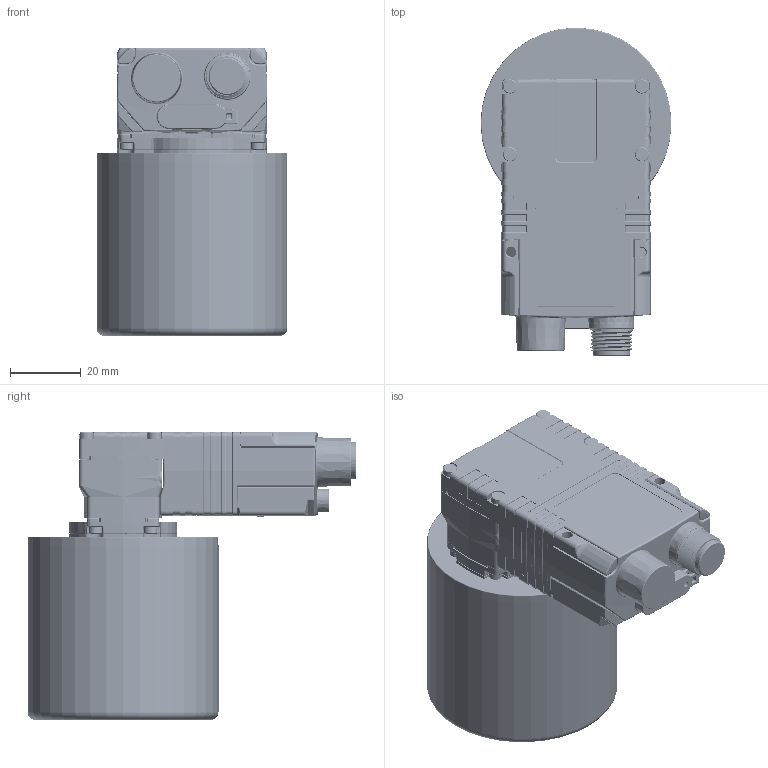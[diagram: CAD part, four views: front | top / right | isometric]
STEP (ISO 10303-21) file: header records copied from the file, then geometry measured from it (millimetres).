
FILE_DESCRIPTION (( 'STEP AP203' ), '1' );
FILE_NAME ('DM280_with_C-Mount_Cover_Angled.STEP', '2021-05-07T12:54:18', ( '' ), ( '' ), 'SwSTEP 2.0', 'SolidWorks 2021', '' );
FILE_SCHEMA (( 'CONFIG_CONTROL_DESIGN' ));
Length unit declared in the file: millimetre
Products named in the file (1): DM280_with_C-Mount_Cover_Angled
Bounding box: 54 x 93.01 x 81.4 mm (x, y, z)
Volume: 187018.4 mm3; surface area: 51426.9 mm2
Topology: 23 solids, 38 shells, 4199 faces, 10912 edges, 6853 vertices
Faces by surface type: plane 1554, cylinder 1357, bspline 681, cone 352, torus 183, sphere 72
Entity records: 167121 total; most frequent: CARTESIAN_POINT 73425, ORIENTED_EDGE 21688, DIRECTION 17163, EDGE_CURVE 10844, VERTEX_POINT 6849, AXIS2_PLACEMENT_3D 5904, VECTOR 5355, LINE 5355
